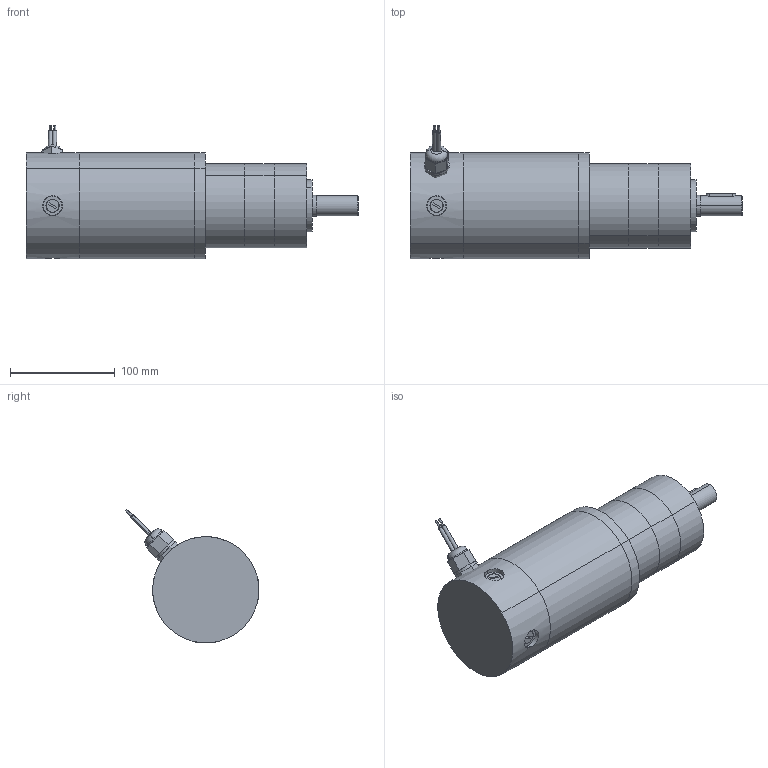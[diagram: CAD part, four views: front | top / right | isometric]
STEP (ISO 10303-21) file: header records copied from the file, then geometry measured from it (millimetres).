
FILE_DESCRIPTION (( 'STEP AP203' ), '1' );
FILE_NAME ('d40675bgp1.step', '2018-12-07T19:46:57', ( '' ), ( '' ), 'SwSTEP 2.0', 'SolidWorks 2017', '' );
FILE_SCHEMA (( 'CONFIG_CONTROL_DESIGN' ));
Length unit declared in the file: inch
Products named in the file (1): d40675bgp1
Bounding box: 317.5 x 128 x 128 mm (x, y, z)
Volume: 1918620.2 mm3; surface area: 207807 mm2
Topology: 21 solids, 21 shells, 466 faces, 984 edges, 596 vertices
Faces by surface type: plane 212, cylinder 173, cone 61, torus 12, sphere 8
Entity records: 12892 total; most frequent: CARTESIAN_POINT 2609, DIRECTION 2327, ORIENTED_EDGE 1920, EDGE_CURVE 960, AXIS2_PLACEMENT_3D 930, VERTEX_POINT 596, EDGE_LOOP 542, VECTOR 467
